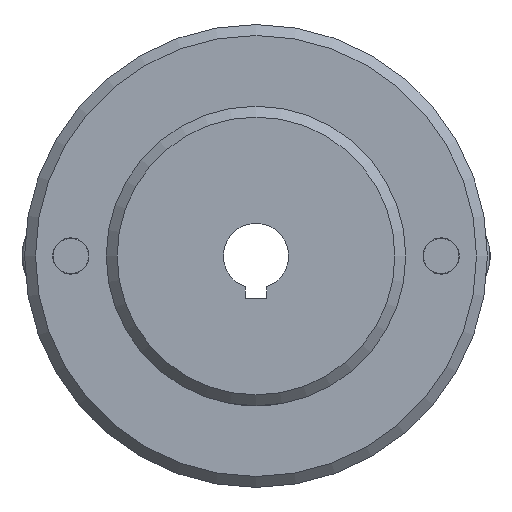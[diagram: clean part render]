
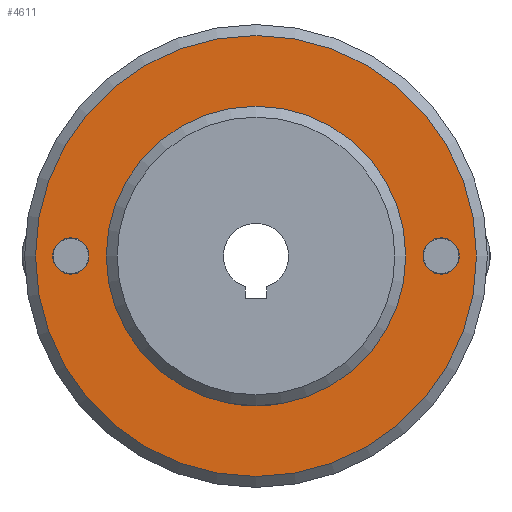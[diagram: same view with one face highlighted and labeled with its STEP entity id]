
A CAD part, left-side view. The second image highlights one B-rep face of the part: STEP entity #4611.
In plain terms, the highlighted planar face has unit normal (-1, 0, 0) as drawn and (0, 1, 0) by its records, which use the part's own axes.
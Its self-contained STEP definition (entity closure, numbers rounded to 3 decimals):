
#919=FACE_BOUND('',#1540,.T.);
#920=FACE_BOUND('',#1541,.T.);
#921=FACE_BOUND('',#1542,.T.);
#1213=FACE_OUTER_BOUND('',#1539,.T.);
#1539=EDGE_LOOP('',(#4219));
#1540=EDGE_LOOP('',(#4220));
#1541=EDGE_LOOP('',(#4221));
#1542=EDGE_LOOP('',(#4222));
#1864=CIRCLE('',#5373,27.5);
#1865=CIRCLE('',#5376,40.5);
#1868=CIRCLE('',#5381,3.324);
#1869=CIRCLE('',#5382,3.324);
#2249=VERTEX_POINT('',#9752);
#2253=VERTEX_POINT('',#9799);
#2256=VERTEX_POINT('',#9809);
#2257=VERTEX_POINT('',#9811);
#2908=EDGE_CURVE('',#2249,#2249,#1864,.T.);
#2912=EDGE_CURVE('',#2253,#2253,#1865,.T.);
#2917=EDGE_CURVE('',#2256,#2256,#1868,.T.);
#2918=EDGE_CURVE('',#2257,#2257,#1869,.T.);
#4219=ORIENTED_EDGE('',*,*,#2912,.F.);
#4220=ORIENTED_EDGE('',*,*,#2908,.F.);
#4221=ORIENTED_EDGE('',*,*,#2917,.T.);
#4222=ORIENTED_EDGE('',*,*,#2918,.T.);
#4321=PLANE('',#5380);
#4611=ADVANCED_FACE('',(#1213,#919,#920,#921),#4321,.T.);
#5373=AXIS2_PLACEMENT_3D('',#9754,#6786,#6787);
#5376=AXIS2_PLACEMENT_3D('',#9800,#6792,#6793);
#5380=AXIS2_PLACEMENT_3D('',#9808,#6802,#6803);
#5381=AXIS2_PLACEMENT_3D('',#9810,#6804,#6805);
#5382=AXIS2_PLACEMENT_3D('',#9812,#6806,#6807);
#6786=DIRECTION('center_axis',(0.,1.,0.));
#6787=DIRECTION('ref_axis',(-1.,0.,0.));
#6792=DIRECTION('center_axis',(0.,-1.,0.));
#6793=DIRECTION('ref_axis',(1.,0.,0.));
#6802=DIRECTION('center_axis',(0.,1.,0.));
#6803=DIRECTION('ref_axis',(0.,0.,1.));
#6804=DIRECTION('center_axis',(0.,-1.,0.));
#6805=DIRECTION('ref_axis',(1.,0.,0.));
#6806=DIRECTION('center_axis',(0.,-1.,0.));
#6807=DIRECTION('ref_axis',(1.,0.,0.));
#9752=CARTESIAN_POINT('',(27.5,8.,0.));
#9754=CARTESIAN_POINT('Origin',(0.,8.,
0.));
#9799=CARTESIAN_POINT('',(-40.5,8.,0.));
#9800=CARTESIAN_POINT('Origin',(0.,8.,
0.));
#9808=CARTESIAN_POINT('Origin',(-35.,8.,0.));
#9809=CARTESIAN_POINT('',(-37.324,8.,0.));
#9810=CARTESIAN_POINT('Origin',(-34.,8.,0.));
#9811=CARTESIAN_POINT('',(30.677,8.,0.));
#9812=CARTESIAN_POINT('Origin',(34.,8.,0.));
